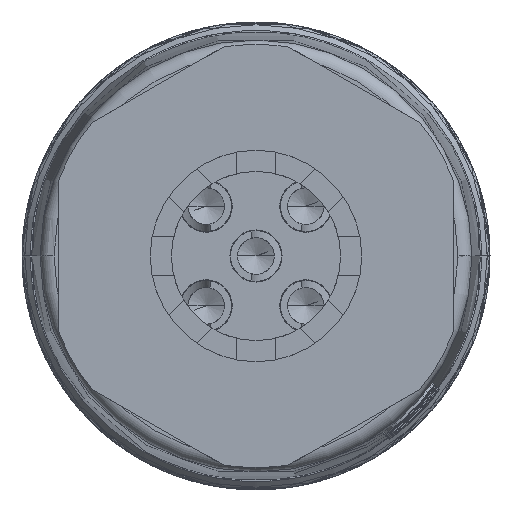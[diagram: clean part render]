
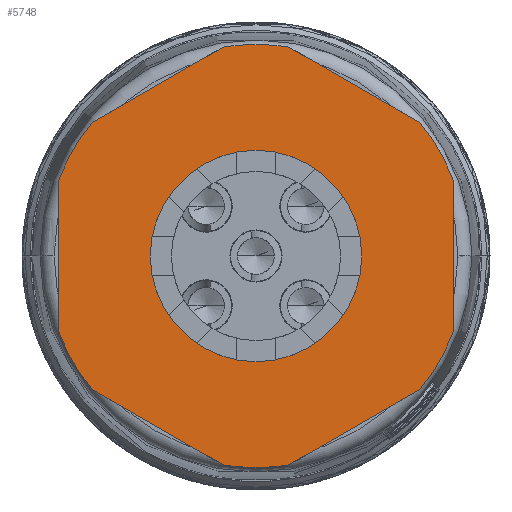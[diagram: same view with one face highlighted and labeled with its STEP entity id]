
A CAD part, left-side view. The second image highlights one B-rep face of the part: STEP entity #5748.
In plain terms, the highlighted planar face has unit normal (-1, 0, 0) as drawn and (0, 0, -1) by its records, which use the part's own axes.
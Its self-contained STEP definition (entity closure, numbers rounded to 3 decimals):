
#3976=DIRECTION('',(0.,-1.,0.));
#3977=VECTOR('',#3976,5.385);
#3978=CARTESIAN_POINT('',(12.505,8.193,-48.65));
#3979=LINE('',#3978,#3977);
#4029=DIRECTION('',(0.,1.,0.));
#4030=VECTOR('',#4029,5.385);
#4031=CARTESIAN_POINT('',(-1.495,2.807,
-48.65));
#4032=LINE('',#4031,#4030);
#4082=DIRECTION('',(-0.866,-0.5,0.));
#4083=VECTOR('',#4082,5.385);
#4084=CARTESIAN_POINT('',(4.336,12.908,-48.65));
#4085=LINE('',#4084,#4083);
#4086=CARTESIAN_POINT('',(5.505,5.5,-48.65));
#4087=DIRECTION('',(0.,0.,1.));
#4088=DIRECTION('',(-0.778,0.629,0.));
#4089=AXIS2_PLACEMENT_3D('',#4086,#4087,#4088);
#4091=CARTESIAN_POINT('',(5.505,5.5,-48.65));
#4092=DIRECTION('',(0.,0.,1.));
#4093=DIRECTION('',(-0.933,-0.359,0.));
#4094=AXIS2_PLACEMENT_3D('',#4091,#4092,#4093);
#4096=DIRECTION('',(0.866,-0.5,0.));
#4097=VECTOR('',#4096,5.385);
#4098=CARTESIAN_POINT('',(-0.327,0.784,
-48.65));
#4099=LINE('',#4098,#4097);
#4100=CARTESIAN_POINT('',(5.505,5.5,-48.65));
#4101=DIRECTION('',(0.,0.,1.));
#4102=DIRECTION('',(-0.156,-0.988,0.));
#4103=AXIS2_PLACEMENT_3D('',#4100,#4101,#4102);
#4105=CARTESIAN_POINT('',(5.505,5.5,-48.65));
#4106=DIRECTION('',(0.,0.,1.));
#4107=DIRECTION('',(0.,-1.,0.));
#4108=AXIS2_PLACEMENT_3D('',#4105,#4106,#4107);
#4110=DIRECTION('',(0.866,0.5,0.));
#4111=VECTOR('',#4110,5.385);
#4112=CARTESIAN_POINT('',(6.673,-1.908,
-48.65));
#4113=LINE('',#4112,#4111);
#4114=CARTESIAN_POINT('',(5.505,5.5,-48.65));
#4115=DIRECTION('',(0.,0.,1.));
#4116=DIRECTION('',(0.778,-0.629,0.));
#4117=AXIS2_PLACEMENT_3D('',#4114,#4115,#4116);
#4119=CARTESIAN_POINT('',(5.505,5.5,-48.65));
#4120=DIRECTION('',(0.,0.,1.));
#4121=DIRECTION('',(0.933,0.359,0.));
#4122=AXIS2_PLACEMENT_3D('',#4119,#4120,#4121);
#4124=DIRECTION('',(-0.866,0.5,0.));
#4125=VECTOR('',#4124,5.385);
#4126=CARTESIAN_POINT('',(11.336,10.216,-48.65));
#4127=LINE('',#4126,#4125);
#4128=CARTESIAN_POINT('',(5.505,5.5,-48.65));
#4129=DIRECTION('',(0.,0.,1.));
#4130=DIRECTION('',(0.156,0.988,0.));
#4131=AXIS2_PLACEMENT_3D('',#4128,#4129,#4130);
#4133=CARTESIAN_POINT('',(5.505,5.5,-48.65));
#4134=DIRECTION('',(0.,0.,1.));
#4135=DIRECTION('',(0.,1.,0.));
#4136=AXIS2_PLACEMENT_3D('',#4133,#4134,#4135);
#4138=CARTESIAN_POINT('',(5.505,5.5,-48.65));
#4139=DIRECTION('',(0.,0.,-1.));
#4140=DIRECTION('',(-1.,0.,0.));
#4141=AXIS2_PLACEMENT_3D('',#4138,#4139,#4140);
#4143=CARTESIAN_POINT('',(5.505,5.5,-48.65));
#4144=DIRECTION('',(0.,0.,-1.));
#4145=DIRECTION('',(1.,0.,0.));
#4146=AXIS2_PLACEMENT_3D('',#4143,#4144,#4145);
#4290=CARTESIAN_POINT('',(12.505,8.193,-48.65));
#4291=VERTEX_POINT('',#4290);
#4292=CARTESIAN_POINT('',(12.505,2.807,-48.65));
#4293=VERTEX_POINT('',#4292);
#4294=CARTESIAN_POINT('',(11.336,10.216,-48.65));
#4295=VERTEX_POINT('',#4294);
#4298=CARTESIAN_POINT('',(6.673,12.908,-48.65));
#4299=VERTEX_POINT('',#4298);
#4306=CARTESIAN_POINT('',(-0.327,10.216,
-48.65));
#4307=VERTEX_POINT('',#4306);
#4308=CARTESIAN_POINT('',(4.336,12.908,-48.65));
#4309=VERTEX_POINT('',#4308);
#4314=CARTESIAN_POINT('',(-1.495,2.807,
-48.65));
#4315=VERTEX_POINT('',#4314);
#4316=CARTESIAN_POINT('',(-1.495,8.193,
-48.65));
#4317=VERTEX_POINT('',#4316);
#4322=CARTESIAN_POINT('',(4.336,-1.908,
-48.65));
#4323=VERTEX_POINT('',#4322);
#4324=CARTESIAN_POINT('',(-0.327,0.784,
-48.65));
#4325=VERTEX_POINT('',#4324);
#4330=CARTESIAN_POINT('',(11.336,0.784,
-48.65));
#4331=VERTEX_POINT('',#4330);
#4332=CARTESIAN_POINT('',(6.673,-1.908,
-48.65));
#4333=VERTEX_POINT('',#4332);
#4334=CARTESIAN_POINT('',(5.505,-2.,-48.65));
#4335=VERTEX_POINT('',#4334);
#4336=CARTESIAN_POINT('',(5.505,13.,-48.65));
#4337=VERTEX_POINT('',#4336);
#4338=CARTESIAN_POINT('',(1.755,5.5,-48.65));
#4339=CARTESIAN_POINT('',(9.255,5.5,-48.65));
#4340=VERTEX_POINT('',#4338);
#4341=VERTEX_POINT('',#4339);
#5715=CARTESIAN_POINT('',(5.505,5.5,-48.65));
#5716=DIRECTION('',(0.,0.,-1.));
#5717=DIRECTION('',(0.,-1.,0.));
#5718=AXIS2_PLACEMENT_3D('',#5715,#5716,#5717);
#5719=PLANE('',#5718);
#5720=ORIENTED_EDGE('',*,*,#5601,.T.);
#5722=ORIENTED_EDGE('',*,*,#5721,.T.);
#5723=ORIENTED_EDGE('',*,*,#5632,.F.);
#5725=ORIENTED_EDGE('',*,*,#5724,.T.);
#5726=ORIENTED_EDGE('',*,*,#5662,.T.);
#5728=ORIENTED_EDGE('',*,*,#5727,.T.);
#5730=ORIENTED_EDGE('',*,*,#5729,.T.);
#5731=ORIENTED_EDGE('',*,*,#5695,.T.);
#5732=ORIENTED_EDGE('',*,*,#5710,.T.);
#5733=ORIENTED_EDGE('',*,*,#5538,.F.);
#5734=ORIENTED_EDGE('',*,*,#5554,.T.);
#5735=ORIENTED_EDGE('',*,*,#5568,.T.);
#5737=ORIENTED_EDGE('',*,*,#5736,.T.);
#5739=ORIENTED_EDGE('',*,*,#5738,.T.);
#5740=EDGE_LOOP('',(#5720,#5722,#5723,#5725,#5726,#5728,#5730,#5731,#5732,#5733,
#5734,#5735,#5737,#5739));
#5741=FACE_OUTER_BOUND('',#5740,.F.);
#5743=ORIENTED_EDGE('',*,*,#5742,.T.);
#5745=ORIENTED_EDGE('',*,*,#5744,.T.);
#5746=EDGE_LOOP('',(#5743,#5745));
#5747=FACE_BOUND('',#5746,.F.);
#5748=ADVANCED_FACE('',(#5741,#5747),#5719,.T.);
#4090=CIRCLE('',#4089,7.5);
#4095=CIRCLE('',#4094,7.5);
#4104=CIRCLE('',#4103,7.5);
#4109=CIRCLE('',#4108,7.5);
#4118=CIRCLE('',#4117,7.5);
#4123=CIRCLE('',#4122,7.5);
#4132=CIRCLE('',#4131,7.5);
#4137=CIRCLE('',#4136,7.5);
#4142=CIRCLE('',#4141,3.75);
#4147=CIRCLE('',#4146,3.75);
#5538=EDGE_CURVE('',#4291,#4293,#3979,.T.);
#5554=EDGE_CURVE('',#4291,#4295,#4123,.T.);
#5568=EDGE_CURVE('',#4295,#4299,#4127,.T.);
#5601=EDGE_CURVE('',#4309,#4307,#4085,.T.);
#5632=EDGE_CURVE('',#4315,#4317,#4032,.T.);
#5662=EDGE_CURVE('',#4325,#4323,#4099,.T.);
#5695=EDGE_CURVE('',#4333,#4331,#4113,.T.);
#5710=EDGE_CURVE('',#4331,#4293,#4118,.T.);
#5721=EDGE_CURVE('',#4307,#4317,#4090,.T.);
#5724=EDGE_CURVE('',#4315,#4325,#4095,.T.);
#5727=EDGE_CURVE('',#4323,#4335,#4104,.T.);
#5729=EDGE_CURVE('',#4335,#4333,#4109,.T.);
#5736=EDGE_CURVE('',#4299,#4337,#4132,.T.);
#5738=EDGE_CURVE('',#4337,#4309,#4137,.T.);
#5742=EDGE_CURVE('',#4340,#4341,#4142,.T.);
#5744=EDGE_CURVE('',#4341,#4340,#4147,.T.);
